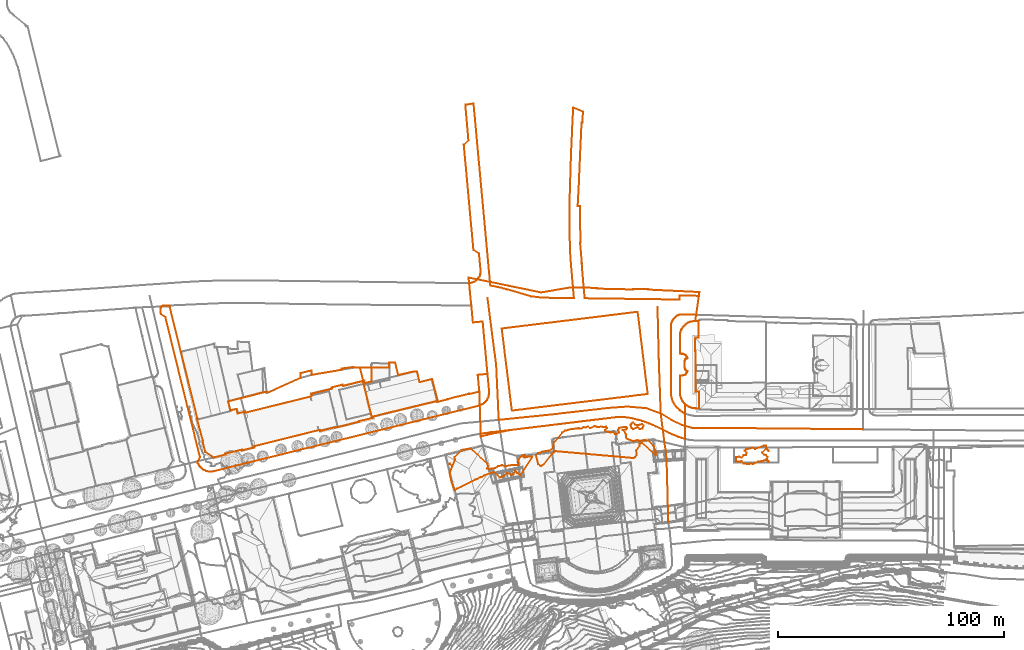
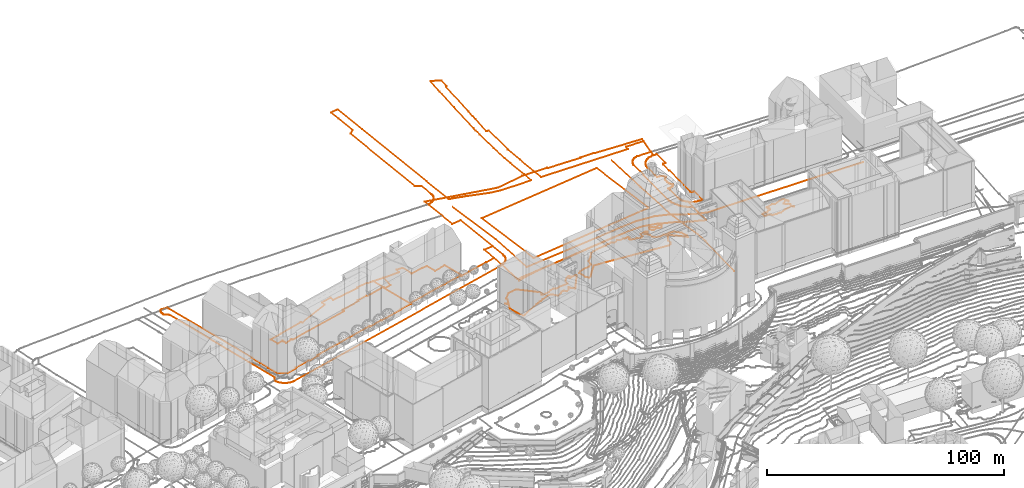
# Not in any storey, part 205 of 477: 10 civil elements, 6 geographic elements.
"""IFC4 model written with IfcOpenShell, lengths in metres."""

from ifc_helpers import new_model, entity, si_unit, frame, origin_with_axes, place, context, subcontext, project, spatial, element, save


model = new_model("IFC4")

# Units and contexts
model_context = context("Model", 3, precision=1e-05, world=origin_with_axes())
body_context = subcontext(model_context, "Body", "Model", "MODEL_VIEW")
ifc_project = project(units=[si_unit("AREAUNIT", "SQUARE_METRE"), si_unit("LENGTHUNIT", "METRE")], contexts=[model_context])

# Sites
site_1_placement = place(None, origin_with_axes())
site_1 = spatial("IfcSite", under=ifc_project, at=site_1_placement, Name="Topoexport Site")
site_2_placement = place(site_1_placement, origin_with_axes())
site_2 = spatial("IfcSite", under=site_1, at=site_2_placement, Name="TPX_ROADS")

# Civil elements
civil_element_1_placement = place(site_2_placement, frame((491.2227320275, 421.6907303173, 542.441), z_axis=(0.0, 0.0, 1.0), x_axis=(1.0, 0.0, 0.0)))
element("IfcCivilElement", 1, at=civil_element_1_placement, inside=site_2, Name="Road 4", ObjectType="ROAD", context=body_context, shape_type="GeometricCurveSet", body=[
    entity("IfcGeometricCurveSet", [entity("IfcIndexedPolyCurve", entity("IfcCartesianPointList3D", [[0.0, 0.0, 0.0], [23.7289999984, 2.4449999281, 0.115], [48.8959999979, 5.320999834, 0.12], [56.9499999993, 5.89599982, 0.154], [65.1479999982, 5.1779998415, 0.195], [71.7629999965, 2.8759999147, 0.212]]))]),
])
civil_element_2_placement = place(site_2_placement, frame((561.5467320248, 472.1697287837, 542.297), z_axis=(0.0, 0.0, 1.0), x_axis=(1.0, 0.0, 0.0)))
element("IfcCivilElement", 2, at=civil_element_2_placement, inside=site_2, Name="Road 25", ObjectType="ROAD", context=body_context, shape_type="GeometricCurveSet", body=[
    entity("IfcGeometricCurveSet", [entity("IfcIndexedPolyCurve", entity("IfcCartesianPointList3D", [[0.0, 0.0, 0.0], [0.5760000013, -23.728999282, 0.206], [1.4389999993, -47.6029985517, 0.356]]))]),
])
civil_element_3_placement = place(site_2_placement, frame((562.9857320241, 424.566730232, 542.653), z_axis=(0.0, 0.0, 1.0), x_axis=(1.0, 0.0, 0.0)))
element("IfcCivilElement", 3, at=civil_element_3_placement, inside=site_2, Name="Road 26", ObjectType="ROAD", context=body_context, shape_type="GeometricCurveSet", body=[
    entity("IfcGeometricCurveSet", [entity("IfcIndexedPolyCurve", entity("IfcCartesianPointList3D", [[0.0, 0.0, 0.0], [4.8900000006, -3.0199999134, 0.102], [9.4910000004, -5.1759998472, 0.099], [14.0930000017, -6.4709998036, -0.02], [43.7400000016, -6.6069997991, 0.012], [89.7010000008, -7.0479997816, -0.167]]))]),
])
civil_element_4_placement = place(site_2_placement, frame((486.1887320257, 476.051728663, 542.28), z_axis=(0.0, 0.0, 1.0), x_axis=(1.0, 0.0, 0.0)))
element("IfcCivilElement", 4, at=civil_element_4_placement, inside=site_2, Name="Road 142", ObjectType="ROAD", context=body_context, shape_type="GeometricCurveSet", body=[
    entity("IfcGeometricCurveSet", [entity("IfcIndexedPolyCurve", entity("IfcCartesianPointList3D", [[0.0, 0.0, 0.0], [3.8839999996, -29.9119990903, 0.013], [5.0340000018, -54.3609983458, 0.161]]))]),
])
civil_element_5_placement = place(site_2_placement, frame((562.9857320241, 424.566730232, 542.653), z_axis=(0.0, 0.0, 1.0), x_axis=(1.0, 0.0, 0.0)))
element("IfcCivilElement", 5, at=civil_element_5_placement, inside=site_2, Name="Road 197", ObjectType="ROAD", context=body_context, shape_type="GeometricCurveSet", body=[
    entity("IfcGeometricCurveSet", [entity("IfcIndexedPolyCurve", entity("IfcCartesianPointList3D", [[0.0, 0.0, 0.0], [1.1610000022, -9.0579997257, 0.049], [2.438000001, -18.5469994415, 0.179], [2.7100000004, -24.5709992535, 0.168], [3.3120000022, -47.9159985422, -1.302]]))]),
])

# Site
site_3_placement = place(site_1_placement, origin_with_axes())
site_3 = spatial("IfcSite", under=site_1, at=site_3_placement, Name="TPX_ROADS_OUTLINES")

# Civil elements
civil_element_6_placement = place(site_3_placement, frame((492.5687320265, 462.1847160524, 542.5206115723), z_axis=(0.0, 0.0, 1.0), x_axis=(1.0, 0.0, 0.0)))
element("IfcCivilElement", 6, at=civil_element_6_placement, inside=site_3, Name="Roads Outline 46", ObjectType="ROAD", context=body_context, shape_type="GeometricCurveSet", body=[
    entity("IfcGeometricCurveSet", [entity("IfcIndexedPolyCurve", entity("IfcCartesianPointList3D", [[0.0, 0.0, 0.0], [60.1900000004, 7.3900000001, 0.3333983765], [64.6520000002, -29.003, 0.3335759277], [4.4590000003, -36.3689999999, 0.0088112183], [0.0, 0.0, 0.0]]))]),
])
civil_element_7_placement = place(site_3_placement, frame((371.3067320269, 429.9197160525, 542.1499628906), z_axis=(0.0, 0.0, 1.0), x_axis=(1.0, 0.0, 0.0)))
element("IfcCivilElement", 7, at=civil_element_7_placement, inside=site_3, Name="Roads Outline 51", ObjectType="ROAD", context=body_context, shape_type="GeometricCurveSet", body=[
    entity("IfcGeometricCurveSet", [entity("IfcIndexedPolyCurve", entity("IfcCartesianPointList3D", [[0.0, 0.0, 0.0], [5.73, 1.4479999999, 0.0662686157], [17.0699999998, 4.3149999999, 0.2485368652], [17.628, 3.885, 0.2478557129], [32.1089999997, 10.4109999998, 0.2823580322], [32.1229999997, 12.4679999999, 0.2827570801], [36.952, 13.7309999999, 0.2695540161], [37.0579999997, 11.7009999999, 0.270621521], [50.0970000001, 13.933, 0.3232791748], [50.412, 13.987, 0.31218573], [50.327, 14.5209999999, 0.3151791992], [55.6459999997, 15.246, 0.4142369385], [55.6919999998, 14.8869999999, 0.4150623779], [55.906, 14.923, 0.4185563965], [58.466, 14.963, 0.4483769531], [63.335, 14.9839999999, 0.4208803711], [63.5649999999, 14.9849999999, 0.4200240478], [63.5090000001, 8.824, 0.4202325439], [60.4139999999, 8.064, 0.4387429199], [60.139, 9.1229999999, 0.4405556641], [59.926, 9.0829999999, 0.4419597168], [59.7259999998, 9.0330000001, 0.4430568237], [50.8959999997, 6.794, 0.2966740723], [50.7519999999, 7.3699999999, 0.300211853], [45.9419999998, 6.183, 0.3147667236], [46.0859999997, 5.598, 0.3150303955], [37.1489999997, 3.443, 0.2715379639], [36.818, 3.3629999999, 0.2692299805], [37.0839999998, 2.2989999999, 0.2708833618], [36.8879999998, 2.25, 0.2689094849], [7.5970000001, -5.061, 0.2592164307], [7.4609999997, -4.577, 0.2669842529], [7.267, -4.6300000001, 0.2485261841], [7.0499999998, -4.6880000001, 0.2279307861], [4.2439999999, -5.4140000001, 0.0237553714], [3.8859999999, -3.9939999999, 0.0296766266], [3.9249999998, -3.983, 0.0301345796], [3.7599999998, -3.3290000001, 0.0396867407], [1.0129999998, -4.0190000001, 0.0265872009], [0.0, 0.0, 0.0]]))]),
])
civil_element_8_placement = place(site_3_placement, frame((341.3117320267, 470.3077160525, 541.9813278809), z_axis=(0.0, 0.0, 1.0), x_axis=(1.0, 0.0, 0.0)))
element("IfcCivilElement", 8, at=civil_element_8_placement, inside=site_3, Name="Roads Outline 52", ObjectType="ROAD", context=body_context, shape_type="GeometricCurveSet", body=[
    entity("IfcGeometricCurveSet", [entity("IfcIndexedPolyCurve", entity("IfcCartesianPointList3D", [[0.0, 0.0, 0.0], [0.048, 0.4639999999, -0.0005449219], [0.1430000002, 0.9199999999, -0.0016234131], [0.2319999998, 1.162, -0.0026337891], [0.3569999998, 1.3869999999, -0.0040528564], [0.5150000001, 1.591, -0.0058465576], [0.6680000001, 1.7379999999, -0.0075834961], [0.8390000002, 1.8639999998, -0.0095247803], [1.1600000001, 2.0249999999, -0.0249763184], [1.5079999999, 2.112, -0.0429030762], [1.8670000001, 2.1209999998, -0.0613757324], [4.0069999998, 2.0629999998, -0.0727415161], [4.0830000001, 1.747, -0.0698701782], [4.034, 1.726, -0.0717214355], [4.1919999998, 1.0719999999, -0.0657520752], [4.2390000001, 1.071, -0.0639763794], [9.0430000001, -18.2420000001, 0.0092376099], [9.0079999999, -18.2610000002, 0.0113204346], [9.0600000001, -18.4750000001, 0.0082259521], [9.1549999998, -18.8700000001, 0.0025725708], [9.2179999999, -18.8560000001, -0.0011765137], [16.4010000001, -47.99, 0.1141248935], [16.2429999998, -48.0330000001, 0.1132426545], [16.3539999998, -48.4790000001, 0.1252494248], [17.4980000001, -53.0660000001, 0.1005418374], [17.622, -53.044, 0.1004554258], [18.8059999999, -57.8640000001, 0.0593007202], [18.682, -57.8910000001, 0.0580421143], [19.9369999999, -62.963, 0.0832633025], [23.6359999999, -65.2680000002, 0.0802575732], [28.801, -63.969, 0.1331612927], [28.7069999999, -63.591, 0.1575611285], [36.1779999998, -61.7280000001, 0.1812755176], [36.2719999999, -62.1060000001, 0.1820090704], [41.0069999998, -60.9340000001, 0.2471613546], [41.4920000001, -60.814, 0.2407499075], [41.3620000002, -60.3200000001, 0.2490253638], [70.7089999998, -53.0080000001, 0.487225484], [70.8250000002, -53.4740000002, 0.4918027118], [71.3489999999, -53.3420000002, 0.497026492], [77.0630000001, -51.9000000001, 0.5628379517], [77.1140000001, -52.108, 0.5646739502], [88.0869999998, -49.409, 0.6401970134], [88.0219999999, -49.179, 0.6389728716], [93.7719999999, -47.7580000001, 0.6169942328], [94.2620000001, -47.6460000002, 0.6125298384], [94.1319999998, -47.1260000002, 0.6095552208], [122.4849999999, -40.192, 0.6374625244], [122.6189999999, -40.6630000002, 0.6415355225], [122.9789999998, -40.5730000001, 0.6431118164], [127.1979999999, -39.5330000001, 0.5915974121], [127.1579999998, -39.3930000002, 0.5912458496], [136.6749999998, -37.0450000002, 0.548128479], [136.7170000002, -37.172, 0.5469928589], [141.3100000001, -36.044, 0.4828564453], [140.6170000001, -28.6460000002, 0.4720358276], [144.9309999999, -28.2380000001, 0.5539501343], [145.6209999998, -35.871, 0.559130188], [145.6540000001, -36.544, 0.5593779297], [145.6099999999, -37.2170000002, 0.5590476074], [145.4909999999, -37.8800000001, 0.5581542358], [145.298, -38.5260000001, 0.5567053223], [145.034, -39.145, 0.5547233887], [144.7009999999, -39.7310000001, 0.5540160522], [144.304, -40.2760000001, 0.5553487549], [143.8390000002, -40.78, 0.5569575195], [143.3199999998, -41.2270000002, 0.5596184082], [142.7519999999, -41.612, 0.5541252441], [142.1439999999, -41.929, 0.5124143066], [141.503, -42.1730000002, 0.4864963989], [141.3020000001, -42.233, 0.4827055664], [141.0989999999, -42.2860000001, 0.4788770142], [23.4610000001, -71.3660000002, -0.1184070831], [22.7960000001, -71.4850000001, -0.1276256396], [22.122, -71.527, -0.1253325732], [21.4479999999, -71.4920000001, -0.1268448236], [20.7820000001, -71.3800000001, -0.1284472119], [20.1329999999, -71.192, -0.1162178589], [19.5099999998, -70.932, -0.1090825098], [18.9210000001, -70.6020000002, -0.1078495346], [18.4019999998, -70.2290000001, -0.1030802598], [17.926, -69.8030000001, -0.1095355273], [17.4989999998, -69.327, -0.1082908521], [17.125, -68.8090000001, -0.1099211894], [16.8100000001, -68.253, -0.1107498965], [16.557, -67.666, -0.1078917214], [16.3689999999, -67.0550000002, -0.0898839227], [16.4199999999, -66.9710000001, -0.0825652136], [17.54, -65.111, -0.0204521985], [2.219, -3.0860000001, -0.0722038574], [0.1949999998, -1.777, -0.0022137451], [0.1030000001, -1.344, -0.0011693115], [0.04, -0.9060000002, -0.0004541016], [0.0049999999, -0.4540000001, -5.67627e-05], [0.0, 0.0, 0.0]]))]),
])
civil_element_9_placement = place(site_3_placement, frame((571.4827320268, 450.9747160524, 542.8571121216), z_axis=(0.0, 0.0, 1.0), x_axis=(1.0, 0.0, 0.0)))
element("IfcCivilElement", 9, at=civil_element_9_placement, inside=site_3, Name="Roads Outline 69", ObjectType="ROAD", context=body_context, shape_type="GeometricCurveSet", body=[
    entity("IfcGeometricCurveSet", [entity("IfcIndexedPolyCurve", entity("IfcCartesianPointList3D", [[0.0, 0.0, 0.0], [0.0019999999, 1.5090000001, -1.40381e-05], [0.0630000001, 1.517, -0.0004421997], [0.0290000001, 7.8489999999, -0.0002035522], [0.0519999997, 8.5090000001, -0.0003649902], [0.142, 9.1629999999, -0.0009967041], [0.298, 9.8049999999, -0.0020916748], [0.517, 10.4280000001, -0.0036288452], [0.798, 11.0249999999, -0.0045324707], [1.1379999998, 11.591, -0.0033911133], [1.5329999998, 12.1200000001, -0.0020651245], [1.9789999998, 12.6070000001, 0.0097111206], [2.4720000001, 13.0460000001, 0.0292096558], [3.0060000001, 13.433, 0.037744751], [3.577, 13.7650000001, 0.0372219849], [4.179, 14.037, 0.0449423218], [4.804, 14.247, 0.0559094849], [5.4479999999, 14.3929999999, 0.0713963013], [6.1030000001, 14.4739999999, 0.0801749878], [6.7629999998, 14.4880000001, 0.0804135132], [6.7709999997, 14.55, 0.0799569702], [8.2719999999, 14.5490000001, 0.0282827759], [8.3029999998, 7.4669999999, 0.0283395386], [8.3029999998, 7.2169999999, 0.0283395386], [7.3509999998, 7.2150000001, 0.046857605], [7.3470000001, 7.1629999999, 0.0470858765], [7.156, 7.1229999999, 0.0579858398], [6.9950000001, 7.014, 0.0671737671], [6.8879999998, 6.851, 0.0732800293], [6.8509999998, 6.6599999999, 0.0753915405], [6.8029999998, 6.648, 0.0781307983], [6.8079999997, 1.318, 0.077845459], [6.9079999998, 1.318, 0.0721386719], [6.9469999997, -10.912, 0.0699130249], [6.8489999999, -10.9129999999, 0.0755056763], [6.8679999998, -16.2649999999, 0.0744213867], [6.915, -16.2660000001, 0.0717391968], [6.9509999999, -16.456, 0.0696847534], [7.057, -16.6170000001, 0.0636355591], [7.2209999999, -16.7290000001, 0.0542764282], [7.415, -16.7690000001, 0.0432052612], [7.4139999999, -16.818, 0.0432623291], [8.3840000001, -16.8030000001, 0.028487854], [8.3899999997, -24.1569999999, 0.054523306], [6.8769999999, -24.169, 0.0649339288], [6.8759999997, -24.095, 0.0657276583], [6.23, -24.068, 0.0655939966], [5.5889999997, -23.98, 0.0566184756], [4.96, -23.8300000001, 0.0345990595], [4.3479999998, -23.621, 0.029925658], [3.7590000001, -23.3540000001, 0.0353835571], [3.199, -23.031, 0.0375680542], [2.6719999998, -22.6569999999, 0.037119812], [2.1829999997, -22.233, 0.01777948], [1.736, -21.763, 0.0001002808], [1.3359999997, -21.2520000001, -0.0027264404], [0.9879999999, -20.7050000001, -0.0038946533], [0.693, -20.1270000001, -0.0048641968], [0.4559999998, -19.524, -0.0032006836], [0.2779999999, -18.8999999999, -0.0019512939], [0.1599999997, -18.2619999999, -0.0011230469], [0.105, -17.6159999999, -0.0007369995], [0.0949999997, -11.1089999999, -0.0006668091], [0.0209999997, -11.1000000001, -0.0001473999], [0.02, -9.5900000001, -0.0001403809], [0.7739999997, -9.588, -0.0046130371], [0.7779999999, -9.6189999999, -0.0045996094], [1.213, -9.598, -0.0031393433], [1.6379999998, -9.504, -0.0017126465], [2.0409999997, -9.341, 0.012163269], [2.412, -9.1129999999, 0.0268366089], [2.7399999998, -8.825, 0.0379882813], [3.0149999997, -8.486, 0.0377365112], [3.2289999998, -8.1059999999, 0.0375405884], [3.3769999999, -7.6950000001, 0.0374050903], [3.088, -7.6040000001, 0.0376696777], [2.8219999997, -7.4579999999, 0.037913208], [2.5899999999, -7.2619999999, 0.033876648], [2.4019999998, -7.024, 0.0264411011], [2.264, -6.754, 0.0209830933], [2.1829999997, -6.4620000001, 0.01777948], [2.074, -5.817, 0.0134684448], [2.0159999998, -5.165, 0.0111744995], [2.0109999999, -4.5109999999, 0.0109767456], [2.057, -3.858, 0.0127960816], [2.1540000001, -3.2109999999, 0.0166325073], [2.2390000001, -2.916, 0.0199943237], [2.378, -2.642, 0.0254918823], [2.5669999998, -2.3999999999, 0.03296698], [2.7990000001, -2.1980000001, 0.0379342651], [3.0639999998, -2.0430000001, 0.0376916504], [3.3539999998, -1.942, 0.0374261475], [3.2059999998, -1.5289999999, 0.0375616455], [2.9929999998, -1.1459999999, 0.0377566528], [2.7199999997, -0.8030000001, 0.0380065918], [2.3939999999, -0.51, 0.0261246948], [2.0249999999, -0.274, 0.0115304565], [1.622, -0.102, -0.0017663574], [1.1969999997, 0.0020000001, -0.0031930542], [0.7599999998, 0.0349999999, -0.0046600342], [0.7560000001, -0.004, -0.0046734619], [0.0, 0.0, 0.0]]))]),
])
civil_element_10_placement = place(site_3_placement, frame((475.7277320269, 543.5787160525, 542.5539154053), z_axis=(0.0, 0.0, 1.0), x_axis=(1.0, 0.0, 0.0)))
element("IfcCivilElement", 10, at=civil_element_10_placement, inside=site_3, Name="Roads Outline 94", ObjectType="ROAD", context=body_context, shape_type="GeometricCurveSet", body=[
    entity("IfcGeometricCurveSet", [entity("IfcIndexedPolyCurve", entity("IfcCartesianPointList3D", [[0.0, 0.0, 0.0], [2.068, 1.969, -0.0192946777], [1.173, 12.1569999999, 0.0020645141], [0.6849999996, 17.71, 0.0102554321], [4.3239999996, 18.311, -0.0827115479], [5.9589999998, 0.561, -0.1029297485], [10.2699999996, -46.219, -0.0185211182], [11.6189999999, -60.8659999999, -0.0131240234], [11.7569999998, -62.3700000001, -0.0143537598], [13.997, -62.8130000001, -0.0205556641], [16.2249999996, -63.3090000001, -0.02893219], [17.6859999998, -63.662, -0.052362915], [19.1409999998, -64.04, -0.0673772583], [29.8309999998, -67.142, -0.0167514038], [32.8829999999, -67.5420000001, 0.0063792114], [34.5439999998, -67.757, 0.0079638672], [48.804, -67.943, 0.1550906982], [48.3389999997, -62.6040000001, 0.1613712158], [47.4699999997, -52.6629999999, 0.1452471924], [47.1569999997, -48.267, 0.1482918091], [46.8639999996, -39.4990000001, 0.1517075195], [46.7969999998, -28.0160000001, 0.1524885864], [46.7869999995, -24.4110000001, 0.1526051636], [46.9349999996, -22.5430000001, 0.1508798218], [47.4749999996, -5.048, 0.1453399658], [48.0489999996, 8.024, 0.1559903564], [48.4509999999, 16.507, 0.1634072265], [52.7899999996, 14.635, 0.1413446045], [52.5549999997, 9.8640000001, 0.1195285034], [52.173, 9.871, 0.110220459], [51.2369999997, -10.977, 0.1190900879], [51.0929999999, -14.4639999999, 0.124310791], [50.9699999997, -17.3460000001, 0.1287701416], [50.4469999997, -27.2210000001, 0.1475994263], [51.4689999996, -27.2150000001, 0.1113376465], [51.6919999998, -43.253, 0.1109837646], [51.5419999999, -43.2450000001, 0.1112218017], [52.3129999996, -52.3970000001, 0.109998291], [52.2309999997, -52.419, 0.110128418], [53.0979999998, -63.0250000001, 0.1699376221], [53.608, -68.0, 0.204293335], [95.6009999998, -68.5790000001, 0.3042776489], [95.6579999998, -66.7169999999, 0.3038775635], [104.1429999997, -66.949, 0.3316918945], [102.9219999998, -75.3300000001, 0.3605548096], [96.835, -75.1440000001, 0.2996109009], [96.227, -75.189, 0.299883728], [95.6289999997, -75.307, 0.3040811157], [95.0489999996, -75.4950000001, 0.2843623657], [94.4959999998, -75.7509999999, 0.2554365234], [93.977, -76.0719999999, 0.2195993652], [93.5009999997, -76.452, 0.1859562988], [93.0729999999, -76.8859999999, 0.1913717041], [92.7259999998, -77.331, 0.1996739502], [92.4299999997, -77.811, 0.206116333], [92.1889999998, -78.321, 0.2041746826], [92.0049999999, -78.855, 0.2026922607], [91.8819999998, -79.405, 0.2017012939], [91.8199999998, -79.966, 0.2012017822], [91.804, -88.4280000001, 0.201072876], [91.7419999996, -108.9920000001, 0.2005733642], [91.7509999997, -109.9070000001, 0.200645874], [91.8389999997, -110.817, 0.2013548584], [92.0049999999, -111.7169999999, 0.2026922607], [92.2479999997, -112.5989999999, 0.2046500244], [92.5669999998, -113.456, 0.2034781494], [92.9879999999, -114.308, 0.1934053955], [93.4789999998, -115.121, 0.1844013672], [94.0359999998, -115.8900000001, 0.2237694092], [94.656, -116.611, 0.2171382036], [95.3329999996, -117.277, 0.2289878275], [95.9099999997, -117.773, 0.2201619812], [96.5209999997, -118.227, 0.2079171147], [97.1629999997, -118.6359999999, 0.2203788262], [97.8319999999, -118.9980000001, 0.2086549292], [97.8939999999, -119.0290000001, 0.2093431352], [97.9569999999, -119.0590000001, 0.209908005], [98.0069999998, -130.327, 0.2071816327], [96.5839999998, -129.8829999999, 0.2990650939], [95.1739999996, -129.3970000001, 0.3613275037], [93.7799999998, -128.8689999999, 0.3567286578], [92.4819999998, -128.3360000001, 0.2984995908], [91.1989999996, -127.7650000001, 0.2862902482], [89.9329999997, -127.159, 0.2777900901], [85.1619999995, -124.8090000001, 0.273824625], [83.608, -124.0819999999, 0.2024933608], [82.0259999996, -123.4180000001, 0.1585220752], [80.4189999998, -122.817, 0.0880784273], [78.8979999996, -122.314, 0.1956160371], [77.3589999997, -121.8689999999, 0.1893990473], [75.804, -121.4820000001, 0.1487499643], [74.3869999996, -121.179, 0.2145759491], [72.96, -120.923, 0.2013105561], [71.5259999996, -120.7139999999, 0.1427921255], [70.1439999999, -120.632, 0.1293564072], [68.7589999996, -120.6300000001, 0.1315564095], [67.3769999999, -120.7069999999, 0.1459653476], [66.0009999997, -120.8640000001, 0.1983923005], [57.267, -121.8910000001, 0.3451753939], [48.3589999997, -122.9890000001, 0.3610978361], [38.7429999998, -124.173, 0.2636224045], [28.3269999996, -125.436, 0.1494456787], [17.2709999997, -126.797, 0.1839821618], [12.1879999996, -127.378, 0.1824178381], [9.8309999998, -127.6670000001, 0.1945774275], [7.483, -128.017, 0.1868761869], [7.4369999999, -126.5430000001, 0.0805358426], [7.0869999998, -115.4440000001, -0.0860911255], [7.7279999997, -115.2, -0.0601732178], [8.3359999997, -114.8829999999, -0.0184622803], [8.9039999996, -114.4980000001, -0.0129691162], [9.423, -114.051, -0.0156300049], [9.8879999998, -113.547, -0.0172387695], [10.2849999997, -113.0020000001, -0.0185714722], [10.6179999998, -112.416, -0.0178641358], [10.8819999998, -111.797, -0.0158822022], [11.0749999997, -111.1510000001, -0.0144332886], [11.1939999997, -110.4880000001, -0.013539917], [11.2379999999, -109.8149999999, -0.0132095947], [11.2049999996, -109.142, -0.0134573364], [10.5149999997, -101.5090000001, -0.0186373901], [8.372, -78.2920000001, -0.0159925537], [4.0389999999, -78.7080000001, -0.074814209], [3.358, -71.3149999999, -0.0558370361], [2.3659999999, -61.3260000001, -0.0273521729], [3.0099999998, -61.2290000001, -0.0457904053], [3.639, -61.0600000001, -0.0637302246], [4.2449999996, -60.8200000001, -0.0805224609], [4.8189999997, -60.513, -0.0942208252], [5.355, -60.1429999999, -0.1058673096], [5.8459999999, -59.7150000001, -0.1040401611], [6.2419999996, -59.307, -0.1001488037], [6.5889999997, -58.8570000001, -0.0954833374], [6.8819999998, -58.371, -0.0899573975], [7.1189999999, -57.8540000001, -0.0854876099], [7.281, -57.3670000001, -0.082432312], [7.392, -56.865, -0.0803388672], [7.4509999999, -56.355, -0.0791763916], [7.4569999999, -55.841, -0.0787647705], [7.4109999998, -55.3300000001, -0.0799805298], [6.7369999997, -48.2139999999, -0.0926920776], [4.2819999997, -46.5989999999, -0.0815477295], [0.0, 0.0, 0.0]]))]),
])

# Site
site_4_placement = place(site_1_placement, origin_with_axes())
site_4 = spatial("IfcSite", under=site_1, at=site_4_placement, Name="TPX_CADASTRES")

# Geographic elements
geographic_element_1_placement = place(site_4_placement, frame((477.8487320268, 484.7277160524, 542.5331876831), z_axis=(0.0, 0.0, 1.0), x_axis=(1.0, 0.0, 0.0)))
element("IfcGeographicElement", 11, at=geographic_element_1_placement, inside=site_4, Name="Cadastre 15", PredefinedType="NOTDEFINED", context=body_context, shape_type="GeometricCurveSet", body=[
    entity("IfcGeometricCurveSet", [entity("IfcIndexedPolyCurve", entity("IfcCartesianPointList3D", [[0.0, 0.0, 0.0], [32.1209999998, -6.5719999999, 0.0270525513], [45.0970000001, -4.3419999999, 0.1683084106], [51.2650000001, -4.4569999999, 0.2174016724], [57.0120000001, -4.588, 0.2562436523], [57.0079999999, -4.895, 0.2562629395], [72.8620000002, -5.2709999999, 0.2617970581], [72.8700000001, -4.9609999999, 0.2622413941], [79.2889999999, -5.0819999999, 0.32068927], [79.5019999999, -5.0870000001, 0.3230310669], [79.4909999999, -5.317, 0.3228591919], [102.2659999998, -6.422, 0.352866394], [100.4049999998, -19.203, 0.4038814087], [100.3969999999, -19.2649999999, 0.4043379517], [99.7370000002, -19.2790000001, 0.4040994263], [99.0819999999, -19.3600000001, 0.3953207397], [98.4380000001, -19.5060000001, 0.3798339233], [97.8130000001, -19.716, 0.3688667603], [97.2110000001, -19.9879999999, 0.3611464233], [96.6400000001, -20.3200000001, 0.3616691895], [96.1060000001, -20.7069999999, 0.3531340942], [95.6129999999, -21.1459999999, 0.3336355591], [95.1669999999, -21.6329999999, 0.321859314], [94.7719999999, -22.162, 0.3205333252], [94.432, -22.7280000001, 0.3193919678], [94.1510000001, -23.325, 0.3202955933], [93.932, -23.9480000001, 0.3218327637], [93.7760000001, -24.5900000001, 0.3229277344], [93.6859999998, -25.2439999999, 0.3235594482], [93.6630000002, -25.9040000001, 0.3237208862], [93.6970000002, -32.236, 0.3234822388], [93.6359999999, -32.2439999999, 0.3239104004], [93.6340000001, -33.753, 0.3239244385], [94.3900000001, -33.757, 0.3192509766], [94.3939999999, -33.7180000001, 0.3192644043], [94.8309999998, -33.7509999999, 0.3207313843], [95.2560000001, -33.855, 0.3221580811], [95.659, -34.027, 0.335454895], [96.0279999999, -34.263, 0.3500491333], [96.3539999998, -34.5560000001, 0.3619310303], [96.6269999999, -34.899, 0.3616810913], [96.8399999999, -35.2819999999, 0.361486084], [96.9879999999, -35.6950000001, 0.3613505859], [96.6979999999, -35.7960000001, 0.3616160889], [96.4330000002, -35.9510000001, 0.3618587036], [96.2009999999, -36.1529999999, 0.3568914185], [96.0120000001, -36.395, 0.3494163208], [95.8730000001, -36.669, 0.3439187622], [95.7880000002, -36.9639999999, 0.3405569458], [95.6910000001, -37.611, 0.33672052], [95.645, -38.264, 0.3349011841], [95.6499999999, -38.9180000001, 0.335098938], [95.7080000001, -39.5700000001, 0.3373928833], [95.8169999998, -40.2150000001, 0.3417039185], [95.898, -40.507, 0.3449075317], [96.0359999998, -40.777, 0.3503655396], [96.2239999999, -41.0149999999, 0.3578010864], [96.4559999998, -41.2109999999, 0.3618376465], [96.7220000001, -41.3570000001, 0.3615941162], [97.0109999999, -41.4480000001, 0.3613295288], [96.8629999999, -41.8589999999, 0.3614650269], [96.6489999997, -42.2390000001, 0.3616609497], [96.3739999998, -42.578, 0.3619127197], [96.0460000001, -42.8659999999, 0.3507610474], [95.6749999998, -43.094, 0.3360877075], [95.2719999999, -43.257, 0.322211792], [94.8470000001, -43.351, 0.3207850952], [94.412, -43.372, 0.3193248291], [94.4079999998, -43.341, 0.3193114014], [93.6540000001, -43.3430000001, 0.3237840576], [93.6549999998, -44.8530000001, 0.3237770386], [93.7289999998, -44.862, 0.3232576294], [93.7390000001, -51.3689999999, 0.323187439], [93.7939999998, -52.0149999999, 0.3228013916], [93.912, -52.6529999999, 0.3219731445], [94.0899999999, -53.277, 0.3207237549], [94.327, -53.8800000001, 0.3190602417], [94.622, -54.4580000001, 0.3200297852], [94.9699999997, -55.0050000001, 0.321197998], [95.3700000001, -55.5160000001, 0.3240247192], [95.8169999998, -55.986, 0.3417039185], [95.8859999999, -71.476, 0.2279093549], [94.463, -71.0319999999, 0.3197928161], [93.0529999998, -70.5460000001, 0.3820552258], [91.659, -70.0179999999, 0.37745638], [90.361, -69.4850000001, 0.319227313], [89.0779999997, -68.9140000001, 0.3070179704], [87.8119999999, -68.308, 0.2985178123], [83.0409999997, -65.9580000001, 0.2945523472], [81.4870000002, -65.2309999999, 0.223221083], [79.9049999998, -64.567, 0.1792497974], [78.298, -63.966, 0.1088061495], [76.7769999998, -63.463, 0.2163437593], [75.2379999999, -63.0179999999, 0.2101267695], [73.6830000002, -62.6310000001, 0.1694776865], [72.2659999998, -62.328, 0.2353036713], [70.8390000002, -62.0719999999, 0.2220382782], [69.4049999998, -61.8629999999, 0.1635198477], [68.023, -61.781, 0.1500841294], [66.6379999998, -61.7790000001, 0.1522841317], [65.2560000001, -61.8559999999, 0.1666930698], [63.8799999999, -62.013, 0.2191200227], [18.9049999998, -67.4839999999, 0.1672072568], [15.5049999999, -68.0919999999, 0.215238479], [12.1189999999, -68.7790000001, 0.2181147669], [8.75, -69.544, 0.2387253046], [5.3999999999, -70.3859999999, 0.2248605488], [4.773, -50.4639999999, -0.0690033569], [4.0800000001, -43.0660000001, -0.0798239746], [8.3939999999, -42.6580000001, 0.002090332], [6.2510000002, -19.4410000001, 0.0047351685], [1.9180000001, -19.8570000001, -0.0540864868], [1.2370000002, -12.4639999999, -0.035109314], [0.0, 0.0, 0.0]]))]),
])
geographic_element_2_placement = place(site_4_placement, frame((429.7727320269, 444.8827160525, 542.5983398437), z_axis=(0.0, 0.0, 1.0), x_axis=(1.0, 0.0, 0.0)))
element("IfcGeographicElement", 12, at=geographic_element_2_placement, inside=site_4, Name="Cadastre 46", PredefinedType="NOTDEFINED", context=body_context, shape_type="GeometricCurveSet", body=[
    entity("IfcGeometricCurveSet", [entity("IfcIndexedPolyCurve", entity("IfcCartesianPointList3D", [[0.0, 0.0, 0.0], [4.8689999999, 0.0209999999, -0.027496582], [12.7590000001, 0.061, 0.1036469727], [12.7689999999, 2.2009999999, 0.1035786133], [15.5779999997, 2.1610000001, 0.0958436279], [16.909, -3.3389999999, 0.0937314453], [22.6880000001, -1.9280000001, 0.026887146], [25.2179999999, -1.6780000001, -0.0156928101], [26.378, -6.4680000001, 0.0110424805], [31.997, -5.0179999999, 0.013987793], [34.5179999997, -15.148, 0.0260998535], [34.1579999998, -15.2380000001, 0.0245235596], [34.0239999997, -14.767, 0.0204505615], [5.6709999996, -21.7010000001, -0.0074567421], [5.801, -22.2210000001, -0.0044821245], [5.3109999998, -22.3330000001, -1.77301e-05], [1.2599999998, -5.9299999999, -0.0053201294], [1.46, -5.8800000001, -0.0064172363], [0.0, 0.0, 0.0]]))]),
])

# Site
site_5_placement = place(site_1_placement, origin_with_axes())
site_5 = spatial("IfcSite", under=site_1, at=site_5_placement, Name="TPX_CONTOUR_LINES")

# Geographic elements
geographic_element_3_placement = place(site_5_placement, frame((549.6777320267, 419.3592470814, 543.0), z_axis=(0.0, 0.0, 1.0), x_axis=(1.0, 0.0, 0.0)))
element("IfcGeographicElement", 13, at=geographic_element_3_placement, inside=site_5, Name="Contour Line 543.0 m", PredefinedType="NOTDEFINED", context=body_context, shape_type="GeometricCurveSet", body=[
    entity("IfcGeometricCurveSet", [entity("IfcIndexedPolyCurve", entity("IfcCartesianPointList3D", [[5.1730820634, -1.188531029, 0.0], [5.0, -1.5690776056, 0.0], [4.0, -1.6561455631, 0.0], [3.0, -0.9341818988, 0.0], [1.0, -1.7316389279, 0.0], [0.3633888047, -1.188531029, 0.0], [0.0, 0.0, 0.0], [0.3021351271, 0.811468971, 0.0], [1.0, 1.1462521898, 0.0], [2.0, 0.1603711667, 0.0], [3.0, 0.0076185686, 0.0], [5.0, 0.4407721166, 0.0], [5.6673883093, -0.188531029, 0.0], [5.1730820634, -1.188531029, 0.0]]))]),
])
geographic_element_4_placement = place(site_5_placement, frame((596.4104212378, 405.1707160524, 543.0), z_axis=(0.0, 0.0, 1.0), x_axis=(1.0, 0.0, 0.0)))
element("IfcGeographicElement", 14, at=geographic_element_4_placement, inside=site_5, Name="Contour Line 543.0 m", PredefinedType="NOTDEFINED", context=body_context, shape_type="GeometricCurveSet", body=[
    entity("IfcGeometricCurveSet", [entity("IfcIndexedPolyCurve", entity("IfcCartesianPointList3D", [[7.3619930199, -3.0, 0.0], [6.2673107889, -2.83518797, 0.0], [5.2673107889, -3.0811068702, 0.0], [3.2673107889, -2.7756041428, 0.0], [2.2673107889, -1.7864992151, 0.0], [0.00504085, -2.0, 0.0], [0.0, 0.0, 0.0], [1.2673107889, 0.2111618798, 0.0], [2.2673107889, -0.2621502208, 0.0], [3.2673107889, 0.9516806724, 0.0], [4.3670483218, 1.0, 0.0], [4.5628697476, 2.0, 0.0], [3.794271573, 3.0, 0.0], [4.2673107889, 3.4031331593, 0.0], [7.2673107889, 4.2005181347, 0.0], [8.2673107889, 3.6947712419, 0.0], [12.2673107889, 5.0598481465, 0.0], [13.2673107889, 5.0479951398, 0.0], [13.5153576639, 4.0, 0.0], [14.380505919, 3.0, 0.0], [14.2673107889, 2.689530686, 0.0], [13.2673107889, 3.7062451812, 0.0], [11.5513517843, 2.0, 0.0], [12.2673107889, 1.1436077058, 0.0], [13.2673107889, 0.8887122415, 0.0], [13.8538795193, 0.0, 0.0], [13.5238650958, -1.0, 0.0], [14.2673107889, -1.6844827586, 0.0], [14.2673107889, -2.1260330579, 0.0], [13.2673107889, -1.0982078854, 0.0], [11.2673107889, -1.788880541, 0.0], [9.5965118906, -2.0, 0.0], [7.3619930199, -3.0, 0.0]]))]),
])
geographic_element_5_placement = place(site_5_placement, frame((507.718871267, 406.1707160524, 543.0), z_axis=(0.0, 0.0, 1.0), x_axis=(1.0, 0.0, 0.0)))
element("IfcGeographicElement", 15, at=geographic_element_5_placement, inside=site_5, Name="Contour Line 543.0 m", PredefinedType="NOTDEFINED", context=body_context, shape_type="GeometricCurveSet", body=[
    entity("IfcGeometricCurveSet", [entity("IfcIndexedPolyCurve", entity("IfcCartesianPointList3D", [[2.0564217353, -5.0, 0.0], [0.9588607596, -3.9842931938, 0.0], [0.0, 0.0, 0.0], [0.9588607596, 0.7363304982, 0.0], [2.9588607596, 1.5015792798, 0.0], [6.0602692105, 2.0, 0.0], [7.5096628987, 3.0, 0.0], [7.9588607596, 5.6172413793, 0.0], [9.9588607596, 7.629139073, 0.0], [11.6481169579, 10.0, 0.0], [12.9588607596, 10.7320000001, 0.0], [14.9588607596, 11.3230769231, 0.0], [18.9588607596, 11.8118195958, 0.0], [19.9588607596, 11.587525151, 0.0], [20.9588607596, 12.2712594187, 0.0], [21.9588607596, 12.2150900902, 0.0], [22.9588607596, 12.652854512, 0.0], [23.9588607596, 11.8566037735, 0.0], [25.9588607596, 12.7605633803, 0.0], [26.9588607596, 12.4071428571, 0.0], [28.9588607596, 12.4900737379, 0.0], [29.9588607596, 12.243262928, 0.0], [30.9588607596, 12.5965346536, 0.0], [31.5239252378, 12.0, 0.0], [30.6587709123, 11.0, 0.0], [30.9588607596, 10.4160839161, 0.0], [32.9588607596, 9.8693820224, 0.0], [33.9588607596, 10.1792828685, 0.0], [34.9588607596, 9.2992345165, 0.0], [35.9588607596, 9.3822714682, 0.0], [36.7878570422, 10.0, 0.0], [36.459586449, 11.0, 0.0], [36.8018031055, 12.0, 0.0], [38.9588607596, 12.3868852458, 0.0], [39.9588607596, 12.2748489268, 0.0], [40.2839377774, 12.0, 0.0], [39.9588607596, 11.3277268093, 0.0], [38.3330843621, 11.0, 0.0], [39.4554361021, 10.0, 0.0], [39.8603004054, 9.0, 0.0], [39.9588607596, 7.6762589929, 0.0], [40.6162034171, 7.0, 0.0], [42.9588607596, 6.1422222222, 0.0], [44.9588607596, 6.5475896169, 0.0], [45.9588607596, 6.0495169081, 0.0], [47.9588607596, 6.603115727, 0.0], [49.9588607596, 6.3050471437, 0.0], [52.1614656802, 4.0, 0.0], [53.1252501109, 1.0, 0.0], [52.9588607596, -0.0563106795, 0.0], [46.9588607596, 5.255319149, 0.0], [45.9832510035, 5.0, 0.0], [45.7874321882, 4.0, 0.0], [44.4301722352, 2.0, 0.0], [44.4770029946, 0.0, 0.0], [43.9588607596, -0.9177377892, 0.0], [42.9588607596, -1.3736842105, 0.0], [7.9588607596, 1.7052023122, 0.0], [7.7177540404, 1.0, 0.0], [6.9588607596, 0.4128440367, 0.0], [2.9588607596, -4.5881261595, 0.0], [2.0564217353, -5.0, 0.0]]))]),
])
geographic_element_6_placement = place(site_5_placement, frame((469.3762966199, 402.1707160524, 543.0), z_axis=(0.0, 0.0, 1.0), x_axis=(1.0, 0.0, 0.0)))
element("IfcGeographicElement", 16, at=geographic_element_6_placement, inside=site_5, Name="Contour Line 543.0 m", PredefinedType="NOTDEFINED", context=body_context, shape_type="GeometricCurveSet", body=[
    entity("IfcGeometricCurveSet", [entity("IfcIndexedPolyCurve", entity("IfcCartesianPointList3D", [[3.2992230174, -11.0, 0.0], [2.3014354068, -11.4782608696, 0.0], [0.9510644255, -8.0, 0.0], [0.0740895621, -4.0, 0.0], [1.2303242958, -1.0, 0.0], [0.0, 0.0, 0.0], [0.3014354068, 0.1769662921, 0.0], [1.3014354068, -0.8274932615, 0.0], [2.4093628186, 2.0, 0.0], [2.2794715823, 3.0, 0.0], [5.3014354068, 6.2156080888, 0.0], [9.3014354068, 6.8173258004, 0.0], [16.9256184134, 0.0, 0.0], [17.2029505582, -1.0, 0.0], [16.6253790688, -2.0, 0.0], [17.3014354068, -2.2532981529, 0.0], [20.3014354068, -1.8068303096, 0.0], [21.5608948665, -1.0, 0.0], [23.3014354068, -0.5569306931, 0.0], [24.3014354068, -1.1086350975, 0.0], [26.3014354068, -0.6496163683, 0.0], [30.3014354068, -0.3897180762, 0.0], [30.5617620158, 2.0, 0.0], [31.4316437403, 3.0, 0.0], [32.3014354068, 3.786146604, 0.0], [33.3014354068, 2.7329286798, 0.0], [33.9862603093, 3.0, 0.0], [32.9517421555, 4.0, 0.0], [33.541267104, 4.0, 0.0], [34.3014354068, 3.1300160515, 0.0], [36.3014354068, 3.3728222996, 0.0], [36.6358104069, 3.0, 0.0], [31.3014354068, -5.0328638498, 0.0], [29.9388761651, -4.0, 0.0], [29.3014354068, -2.8488664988, 0.0], [28.3014354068, -4.3755656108, 0.0], [27.3014354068, -4.892420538, 0.0], [26.3014354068, -4.1911532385, 0.0], [25.3014354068, -4.0512820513, 0.0], [24.3014354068, -5.070945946, 0.0], [22.3014354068, -5.9750000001, 0.0], [20.3014354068, -3.7168141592, 0.0], [19.3014354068, -3.7, 0.0], [15.3014354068, -5.05, 0.0], [14.3014354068, -5.774590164, 0.0], [13.3014354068, -5.9220985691, 0.0], [12.3014354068, -6.6989247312, 0.0], [11.3014354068, -6.9411071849, 0.0], [3.2992230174, -11.0, 0.0]]))]),
])

save(model, "model.ifc")
